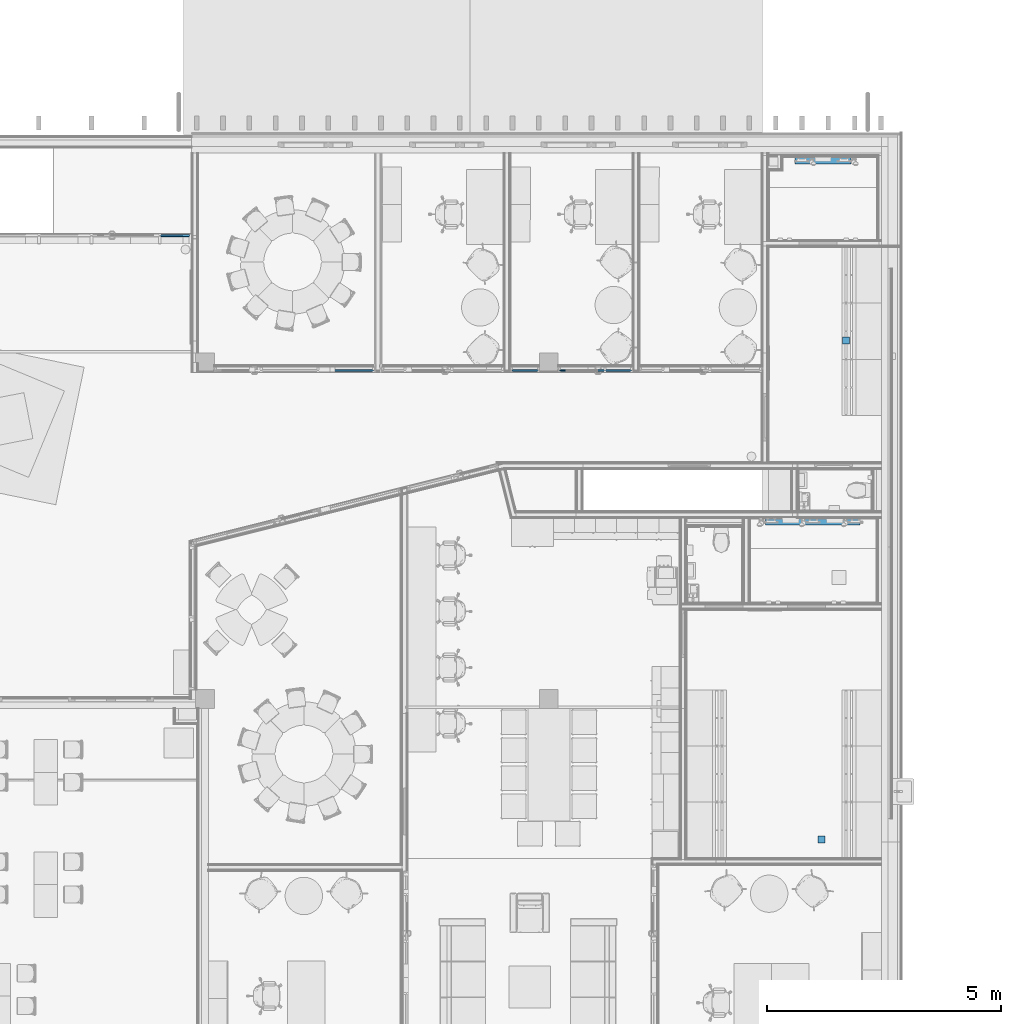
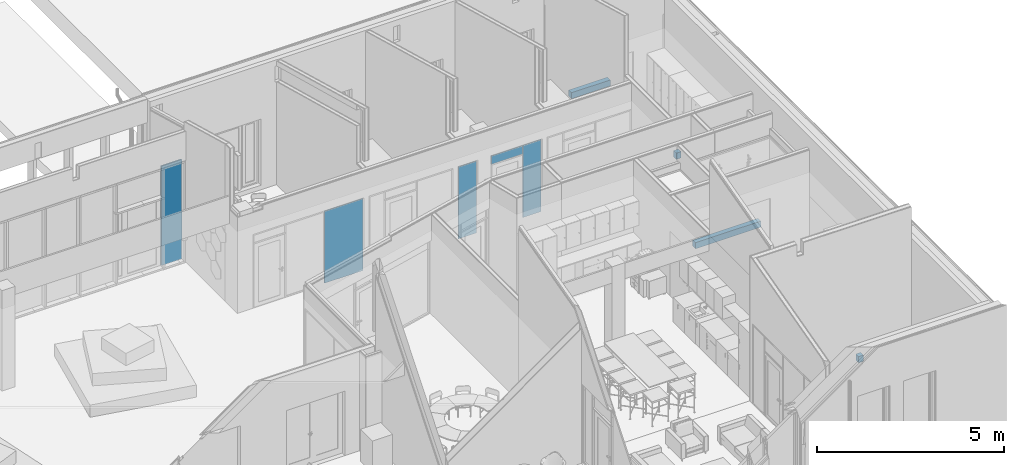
# One storey, part 40 of 153: 5 plates, 4 slabs, 4 elements without a shape of their own.
"""IFC2X3 building model written with IfcOpenShell, lengths in millimetres."""

from ifc_helpers import new_model, entity, si_unit, converted_unit, derived_unit, money_unit, direction, frame, origin_with_axes, place, context, subcontext, project, spatial, faceted_brep, material, type_object, element, aggregate, save


model = new_model("IFC2X3")

# Units and contexts
model_context = context("Model", 3, precision=0.01, world=origin_with_axes(), true_north=direction((0.0, 1.0)))
body_context = subcontext(model_context, "Body", "Model", "MODEL_VIEW")
ifc_project = project(units=[si_unit("LENGTHUNIT", "METRE", prefix="MILLI"), si_unit("AREAUNIT", "SQUARE_METRE"), si_unit("VOLUMEUNIT", "CUBIC_METRE"), converted_unit("PLANEANGLEUNIT", "DEGREE", entity("IfcPlaneAngleMeasure", 0.0174532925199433), si_unit("PLANEANGLEUNIT", "RADIAN"), dimensions=[0, 0, 0, 0, 0, 0, 0]), money_unit("EUR"), converted_unit("TIMEUNIT", "Year", entity("IfcTimeMeasure", 31557600.0), si_unit("TIMEUNIT", "SECOND"), dimensions=[0, 0, 1, 0, 0, 0, 0]), si_unit("MASSUNIT", "GRAM", prefix="KILO"), si_unit("THERMODYNAMICTEMPERATUREUNIT", "DEGREE_CELSIUS"), si_unit("LUMINOUSINTENSITYUNIT", "LUMEN"), si_unit("ENERGYUNIT", "JOULE", prefix="MEGA"), derived_unit("THERMALCONDUCTANCEUNIT", [(si_unit("POWERUNIT", "WATT"), 1), (si_unit("LENGTHUNIT", "METRE"), -1), (si_unit("THERMODYNAMICTEMPERATUREUNIT", "KELVIN"), -1)]), derived_unit("SPECIFICHEATCAPACITYUNIT", [(si_unit("ENERGYUNIT", "JOULE"), 1), (si_unit("MASSUNIT", "GRAM", prefix="KILO"), -1), (si_unit("THERMODYNAMICTEMPERATUREUNIT", "KELVIN"), -1)]), derived_unit("MASSDENSITYUNIT", [(si_unit("MASSUNIT", "GRAM", prefix="KILO"), 1), (si_unit("VOLUMEUNIT", "CUBIC_METRE"), -1)])], contexts=[model_context])

# Site, building, storey
site_placement = place(None, frame((0.0, 0.0, 8650.0), z_axis=(0.0, 0.0, 1.0), x_axis=(1.0, 0.0, 0.0)))
site = spatial("IfcSite", under=ifc_project, at=site_placement, Name="43301:001:0844", CompositionType="ELEMENT")
building_placement = place(site_placement, origin_with_axes())
building = spatial("IfcBuilding", under=site, at=building_placement, Name="Kuressaare Ametikooli tuulikute mehaanikute õppekorpus", CompositionType="ELEMENT")
storey_placement = place(building_placement, frame((0.0, 0.0, 4100.0), z_axis=(0.0, 0.0, 1.0), x_axis=(1.0, 0.0, 0.0)))
storey = spatial("IfcBuildingStorey", under=building, at=storey_placement, Name="2.korrus", CompositionType="ELEMENT", Elevation=4100.0)

# Slabs
ifc_material_1 = material(Name="GENEERILINE - KONSTRUKTRIOON")
slab_type = type_object("IfcSlabType", Name="GENEERILINE - KONSTRUKTRIOON 200", PredefinedType="NOTDEFINED")
slab_1_placement = place(storey_placement, frame((130551.8745542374, 20290.06892395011, 0.0), z_axis=(0.0, 0.0, 1.0), x_axis=(1.0, 0.0, 0.0)))
element("IfcSlab", 1, at=slab_1_placement, inside=storey, type_object=slab_type, material=ifc_material_1, Name="Põrandatrapp", PredefinedType="NOTDEFINED", context=body_context, shape_type="Brep", body=[
    faceted_brep([(0.0, 0.0, 0.0), (0.0, 0.0, -200.0000000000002), (2020.11624042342, 0.0, -200.0000000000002), (2020.11624042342, 0.0, 0.0), (0.0, 149.9999999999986, 0.0), (0.0, 149.9999999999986, -200.0000000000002), (2020.11624042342, 149.9999999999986, -200.0000000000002), (2020.11624042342, 149.9999999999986, 0.0)], [[[0, 1, 2, 3]], [[4, 5, 1, 0]], [[2, 1, 5, 6]], [[3, 2, 6, 7]], [[4, 0, 3, 7]], [[7, 6, 5, 4]]]),
])
slab_2_placement = place(storey_placement, frame((131177.0073978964, 28008.06892395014, 0.0), z_axis=(0.0, 0.0, 1.0), x_axis=(1.0, 0.0, 0.0)))
element("IfcSlab", 2, at=slab_2_placement, inside=storey, type_object=slab_type, material=ifc_material_1, Name="Põrandatrapp", PredefinedType="NOTDEFINED", context=body_context, shape_type="Brep", body=[
    faceted_brep([(0.0, 0.0, 0.0), (0.0, 0.0, -200.0000000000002), (1199.999999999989, 0.0, -200.0000000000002), (1199.999999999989, 0.0, 0.0), (0.0, 149.9999999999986, 0.0), (0.0, 149.9999999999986, -200.0000000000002), (1199.999999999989, 149.9999999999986, -200.0000000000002), (1199.999999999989, 149.9999999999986, 0.0)], [[[0, 1, 2, 3]], [[4, 5, 1, 0]], [[2, 1, 5, 6]], [[3, 2, 6, 7]], [[4, 0, 3, 7]], [[7, 6, 5, 4]]]),
])
for number, where, z_axis, x_axis in (
    (3, (131822.468616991, 13651.04677521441, 0.0), (0.0, 0.0, 1.0), (1.0, 0.0, 0.0)),
    (4, (132345.0073993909, 24310.56895074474, 0.0), (0.0, 0.0, 1.0), (1.0, 0.0, 0.0)),
):
    element("IfcSlab", number, at=place(storey_placement, frame(where, z_axis=z_axis, x_axis=x_axis)), inside=storey, type_object=slab_type, material=ifc_material_1, Name="Põrandatrapp", PredefinedType="NOTDEFINED", context=body_context, shape_type="Brep", body=[
        faceted_brep([(0.0, 0.0, 0.0), (0.0, 0.0, -200.0000000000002), (-149.9999999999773, 0.0, -200.0000000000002), (-149.9999999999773, 0.0, 0.0), (0.0, -150.0000535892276, 0.0), (0.0, -150.0000535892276, -200.0000000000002), (-149.9999999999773, -150.0000535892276, -200.0000000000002), (-149.9999999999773, -150.0000535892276, 0.0)], [[[0, 1, 2, 3]], [[4, 5, 1, 0]], [[2, 1, 5, 6]], [[3, 2, 6, 7]], [[4, 0, 3, 7]], [[7, 6, 5, 4]]]),
    ])

# Curtain wall, plate
curtain_wall_type = type_object("IfcCurtainWallType", Name="Curtain Wall Type", PredefinedType="NOTDEFINED")
curtain_wall_1_placement = place(storey_placement, frame((116907.3849272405, 26479.57374875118, 34.9999663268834), z_axis=(0.0, 0.0, 1.0), x_axis=(1.0, 0.0, 0.0)))
curtain_wall_1 = element("IfcCurtainWall", 5, at=curtain_wall_1_placement, inside=storey, type_object=curtain_wall_type, Name="SKF-2.2,EI60")
ifc_material_2 = material(Name="Klaas")
plate_type_1 = type_object("IfcPlateType", Name="Main Panel 496 x 955 x 40", PredefinedType="NOTDEFINED")
plate_1_placement = place(curtain_wall_1_placement, frame((1021.866287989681, 0.0, 1725.714289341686), z_axis=(0.0, 0.0, 1.0), x_axis=(-1.0, 0.0, 0.0)))
plate_1 = element("IfcPlate", 6, at=plate_1_placement, type_object=plate_type_1, material=ifc_material_2, context=body_context, shape_type="Brep", body=[
    faceted_brep([(-312.024619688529, 20.00000000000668, 1529.285719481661), (-312.024619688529, -19.99999999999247, 1529.285719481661), (-173.6981736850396, -19.99999999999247, 1529.285670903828), (-173.6981736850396, 20.00000000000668, 1529.285670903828), (-312.024619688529, 20.00000000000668, -1720.714270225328), (-312.024619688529, -19.99999999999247, -1720.714270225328), (-173.6981736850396, -19.99999999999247, -1720.714270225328), (322.1484873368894, -19.99999999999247, -1720.714270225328), (322.1484873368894, -19.99999999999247, 574.2857601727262), (322.1484873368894, -19.99999999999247, 1529.285670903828), (322.1484873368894, 20.00000000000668, 1529.285670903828), (322.1484873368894, 20.00000000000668, 574.2857601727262), (322.1484873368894, 20.00000000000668, -1720.714270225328), (-173.6981736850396, 20.00000000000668, -1720.714270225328)], [[[0, 1, 2, 3]], [[4, 5, 1, 0]], [[1, 5, 6, 7, 8, 9, 2]], [[3, 2, 9, 10]], [[0, 3, 10, 11, 12, 13, 4]], [[13, 6, 5, 4]], [[12, 7, 6, 13]], [[11, 8, 7, 12]], [[10, 9, 8, 11]]]),
])
aggregate(curtain_wall_1, [plate_1])

curtain_wall_2_placement = place(storey_placement, frame((119422.8886145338, 23599.06892395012, 7.49398259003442e-05), z_axis=(0.0, 0.0, 1.0), x_axis=(1.0, 0.0, 0.0)))
curtain_wall_2 = element("IfcCurtainWall", 7, at=curtain_wall_2_placement, inside=storey, type_object=curtain_wall_type, Name="PKF-1.1")
plate_type_2 = type_object("IfcPlateType", Name="Main Panel 248 x 2350 x 30", PredefinedType="NOTDEFINED")
plate_2_placement = place(curtain_wall_2_placement, frame((2018.20112879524, 0.0, 1199.999948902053), z_axis=(0.0, 0.0, 1.0), x_axis=(-1.0, 0.0, 0.0)))
plate_2 = element("IfcPlate", 8, at=plate_2_placement, type_object=plate_type_2, material=ifc_material_2, context=body_context, shape_type="Brep", body=[
    faceted_brep([(-730.9786523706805, -15.00000000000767, 1175.000023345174), (91.41775907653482, -15.00000000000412, 1175.000023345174), (91.41775907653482, 14.99999999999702, 1175.000023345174), (-730.9786523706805, 14.99999999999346, 1175.000023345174), (-730.9786523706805, -15.00000000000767, -1175.000023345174), (91.41775907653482, -15.00000000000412, -1175.000023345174), (205.9786296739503, -15.00000000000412, -1175.000023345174), (453.5822752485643, -15.00000000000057, -1175.000023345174), (453.5822752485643, -15.00000000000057, 1175.000023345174), (205.9786296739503, -15.00000000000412, 1175.000023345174), (205.9786296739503, 14.99999999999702, 1175.000023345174), (453.5822752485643, 15.00000000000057, 1175.000023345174), (453.5822752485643, 15.00000000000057, -1175.000023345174), (205.9786296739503, 14.99999999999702, -1175.000023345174), (91.41775907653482, 14.99999999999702, -1175.000023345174), (-730.9786523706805, 14.99999999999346, -1175.000023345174)], [[[0, 1, 2, 3]], [[0, 4, 5, 6, 7, 8, 9, 1]], [[1, 9, 10, 2]], [[3, 2, 10, 11, 12, 13, 14, 15]], [[4, 0, 3, 15]], [[5, 4, 15, 14]], [[6, 5, 14, 13]], [[7, 6, 13, 12]], [[8, 7, 12, 11]], [[9, 8, 11, 10]]]),
])
aggregate(curtain_wall_2, [plate_2])

curtain_wall_3_placement = place(storey_placement, frame((125409.5683670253, 23599.06892395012, 7.152564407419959e-05), z_axis=(0.0, 0.0, 1.0), x_axis=(1.0, 0.0, 0.0)))
curtain_wall_3 = element("IfcCurtainWall", 9, at=curtain_wall_3_placement, inside=storey, type_object=curtain_wall_type, Name="PKF-1.3")
plate_type_3 = type_object("IfcPlateType", Name="Main Panel 567 x 2350 x 30", PredefinedType="NOTDEFINED")
plate_3_placement = place(curtain_wall_3_placement, frame((0.0, 0.0, 1199.999964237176), z_axis=(0.0, 0.0, 1.0), x_axis=(-1.0, 0.0, 0.0)))
plate_3 = element("IfcPlate", 10, at=plate_3_placement, type_object=plate_type_3, material=ifc_material_2, context=body_context, shape_type="Brep", body=[
    faceted_brep([(-283.5000459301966, -15.0000000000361, 1175.000035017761), (283.5000424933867, -15.00000000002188, 1175.000035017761), (283.5000424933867, 14.99999999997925, 1175.000035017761), (-283.5000459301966, 14.99999999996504, 1175.000035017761), (-283.5000459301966, -15.0000000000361, -1175.000035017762), (283.5000424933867, -15.00000000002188, -1175.000035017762), (283.5000424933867, 14.99999999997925, -1175.000035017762), (-283.5000459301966, 14.99999999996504, -1175.000035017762)], [[[0, 1, 2, 3]], [[0, 4, 5, 1]], [[1, 5, 6, 2]], [[3, 2, 6, 7]], [[4, 0, 3, 7]], [[5, 4, 7, 6]]]),
])
aggregate(curtain_wall_3, [plate_3])

# Curtain wall, plates
curtain_wall_4_placement = place(storey_placement, frame((126664.0825969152, 23599.06892395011, 9.536752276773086e-05), z_axis=(0.0, 0.0, 1.0), x_axis=(1.0, 0.0, 0.0)))
curtain_wall_4 = element("IfcCurtainWall", 11, at=curtain_wall_4_placement, inside=storey, type_object=curtain_wall_type, Name="PKF-1.4")
plate_type_4 = type_object("IfcPlateType", Name="Main Panel 613 x 270 x 30", PredefinedType="NOTDEFINED")
plate_4_placement = place(curtain_wall_4_placement, frame((0.0, 0.0, 2249.999946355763), z_axis=(0.0, 0.0, 1.0), x_axis=(-1.0, 0.0, 0.0)))
plate_4 = element("IfcPlate", 12, at=plate_4_placement, type_object=plate_type_4, material=ifc_material_2, context=body_context, shape_type="Brep", body=[
    faceted_brep([(-448.9857700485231, -15.00000000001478, 125.0000268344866), (-92.02850007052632, -15.00000000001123, 125.0000268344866), (-92.02850007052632, 14.99999999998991, 125.0000268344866), (-448.9857700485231, 14.99999999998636, 125.0000268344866), (-448.9857700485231, -15.00000000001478, -145.0000295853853), (-92.02850007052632, -15.00000000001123, -145.0000295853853), (521.01427204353, -15.00000000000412, -145.0000295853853), (521.01427204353, -15.00000000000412, 125.0000268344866), (521.01427204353, 14.99999999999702, 125.0000268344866), (521.01427204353, 14.99999999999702, -145.0000295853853), (-92.02850007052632, 14.99999999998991, -145.0000295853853), (-448.9857700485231, 14.99999999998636, -145.0000295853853)], [[[0, 1, 2, 3]], [[0, 4, 5, 6, 7, 1]], [[1, 7, 8, 2]], [[3, 2, 8, 9, 10, 11]], [[4, 0, 3, 11]], [[5, 4, 11, 10]], [[6, 5, 10, 9]], [[7, 6, 9, 8]]]),
])
plate_type_5 = type_object("IfcPlateType", Name="Main Panel 563 x 275 x 30", PredefinedType="NOTDEFINED")
plate_5_placement = place(curtain_wall_4_placement, frame((691.1857796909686, 0.0, 1379.999935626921), z_axis=(0.0, 0.0, 1.0), x_axis=(-1.0, 0.0, 0.0)))
plate_5 = element("IfcPlate", 13, at=plate_5_placement, type_object=plate_type_5, material=ifc_material_2, context=body_context, shape_type="Brep", body=[
    faceted_brep([(-330.8000075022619, -15.00000000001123, 995.0000397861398), (232.2000092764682, -15.00000000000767, 995.0000397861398), (232.2000092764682, 14.99999999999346, 995.0000397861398), (-330.8000075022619, 14.99999999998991, 995.0000397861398), (-330.8000075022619, -15.00000000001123, -1355.000030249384), (232.2000092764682, -15.00000000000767, -1355.000030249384), (232.2000092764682, -15.00000000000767, 719.9999958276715), (232.2000092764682, 14.99999999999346, 719.9999958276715), (232.2000092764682, 14.99999999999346, -1355.000030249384), (-330.8000075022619, 14.99999999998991, -1355.000030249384)], [[[0, 1, 2, 3]], [[0, 4, 5, 6, 1]], [[1, 6, 7, 2]], [[3, 2, 7, 8, 9]], [[4, 0, 3, 9]], [[5, 4, 9, 8]], [[6, 5, 8, 7]]]),
])
aggregate(curtain_wall_4, [plate_4, plate_5])

save(model, "model.ifc")
